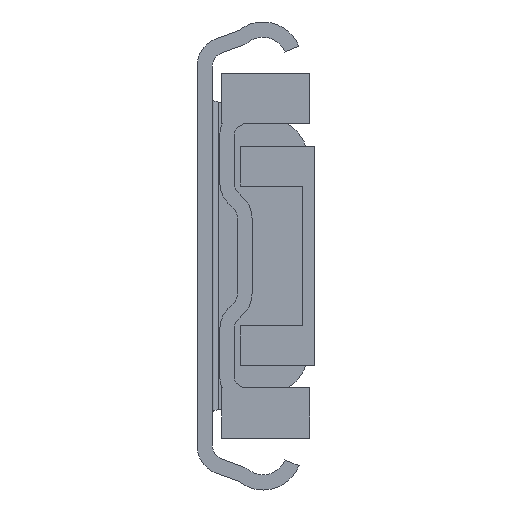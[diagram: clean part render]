
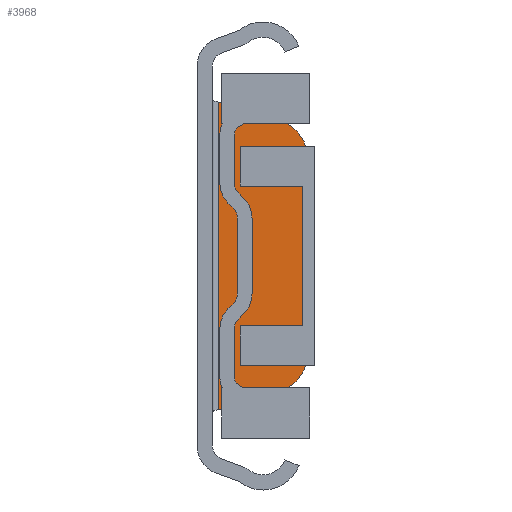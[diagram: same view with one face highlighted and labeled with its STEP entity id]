
A CAD part, front view. The second image highlights one B-rep face of the part: STEP entity #3968.
In plain terms, the highlighted planar face has unit normal (0, -1, 0).
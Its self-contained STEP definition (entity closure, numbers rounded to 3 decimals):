
#338=LINE('',#6826,#722);
#339=LINE('',#6831,#723);
#340=LINE('',#6835,#724);
#341=LINE('',#6837,#725);
#722=VECTOR('',#5654,1000.);
#723=VECTOR('',#5657,1000.);
#724=VECTOR('',#5660,1000.);
#725=VECTOR('',#5661,1000.);
#890=PLANE('',#4709);
#1746=ORIENTED_EDGE('',*,*,#2470,.F.);
#1747=ORIENTED_EDGE('',*,*,#2471,.F.);
#1748=ORIENTED_EDGE('',*,*,#2472,.F.);
#1749=ORIENTED_EDGE('',*,*,#2473,.F.);
#1750=ORIENTED_EDGE('',*,*,#2474,.F.);
#1751=ORIENTED_EDGE('',*,*,#2475,.F.);
#2470=EDGE_CURVE('',#2908,#2909,#338,.T.);
#2471=EDGE_CURVE('',#2910,#2908,#3136,.F.);
#2472=EDGE_CURVE('',#2911,#2910,#339,.T.);
#2473=EDGE_CURVE('',#2912,#2911,#3137,.F.);
#2474=EDGE_CURVE('',#2913,#2912,#340,.T.);
#2475=EDGE_CURVE('',#2909,#2913,#341,.T.);
#2908=VERTEX_POINT('',#6827);
#2909=VERTEX_POINT('',#6828);
#2910=VERTEX_POINT('',#6830);
#2911=VERTEX_POINT('',#6832);
#2912=VERTEX_POINT('',#6834);
#2913=VERTEX_POINT('',#6836);
#3136=CIRCLE('',#4710,8.);
#3137=CIRCLE('',#4711,8.);
#3380=EDGE_LOOP('',(#1746,#1747,#1748,#1749,#1750,#1751));
#3650=FACE_BOUND('',#3380,.T.);
#3968=ADVANCED_FACE('',(#3650),#890,.T.);
#4709=AXIS2_PLACEMENT_3D('',#6825,#5652,#5653);
#4710=AXIS2_PLACEMENT_3D('',#6829,#5655,#5656);
#4711=AXIS2_PLACEMENT_3D('',#6833,#5658,#5659);
#5652=DIRECTION('',(0.,-1.,0.));
#5653=DIRECTION('',(0.,0.,-1.));
#5654=DIRECTION('',(-0.966,0.,-0.259));
#5655=DIRECTION('',(0.,-1.,0.));
#5656=DIRECTION('',(0.,0.,-1.));
#5657=DIRECTION('',(0.,0.,-1.));
#5658=DIRECTION('',(0.,-1.,0.));
#5659=DIRECTION('',(0.,0.,-1.));
#5660=DIRECTION('',(0.966,0.,-0.259));
#5661=DIRECTION('',(0.,0.,1.));
#6825=CARTESIAN_POINT('',(12.9,1369.1,14.965));
#6826=CARTESIAN_POINT('',(22.316,1369.1,-20.174));
#6827=CARTESIAN_POINT('',(12.471,1369.1,-22.812));
#6828=CARTESIAN_POINT('',(3.5,1369.1,-25.216));
#6829=CARTESIAN_POINT('',(10.4,1369.1,-15.085));
#6830=CARTESIAN_POINT('',(18.4,1369.1,-15.085));
#6831=CARTESIAN_POINT('',(18.4,1369.1,14.965));
#6832=CARTESIAN_POINT('',(18.4,1369.1,15.085));
#6833=CARTESIAN_POINT('',(10.4,1369.1,15.085));
#6834=CARTESIAN_POINT('',(12.471,1369.1,22.812));
#6835=CARTESIAN_POINT('',(14.833,1369.1,22.179));
#6836=CARTESIAN_POINT('',(3.5,1369.1,25.216));
#6837=CARTESIAN_POINT('',(3.5,1369.1,-25.766));
